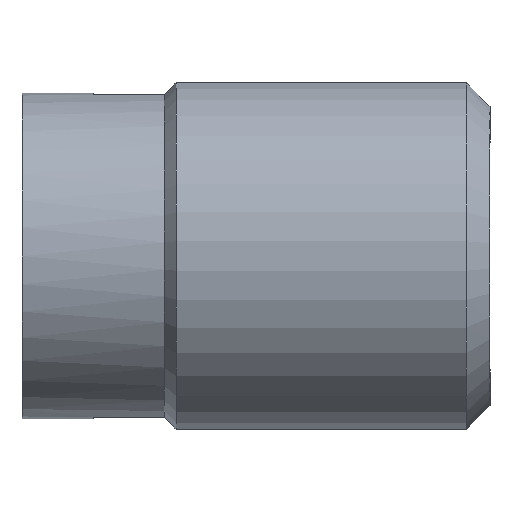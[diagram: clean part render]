
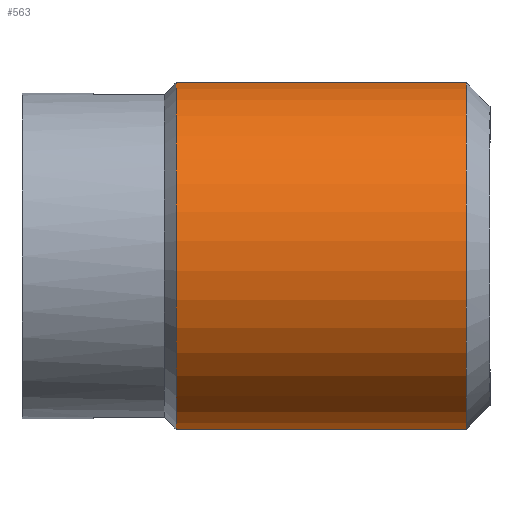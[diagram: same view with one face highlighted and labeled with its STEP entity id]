
A CAD part, front view. The second image highlights one B-rep face of the part: STEP entity #563.
In plain terms, the highlighted cylindrical face has radius 2.95 mm (diameter 5.9 mm), a partial arc.
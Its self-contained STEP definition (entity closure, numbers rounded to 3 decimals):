
#18 = ORIENTED_EDGE ( 'NONE', *, *, #809, .T. ) ;
#72 = CARTESIAN_POINT ( 'NONE',  ( -0.4, 0., 0. ) ) ;
#77 = DIRECTION ( 'NONE',  ( 1., 0., 0. ) ) ;
#91 = CIRCLE ( 'NONE', #689, 2.95 ) ;
#140 = FACE_OUTER_BOUND ( 'NONE', #587, .T. ) ;
#164 = VECTOR ( 'NONE', #519, 1000. ) ;
#166 = VERTEX_POINT ( 'NONE', #506 ) ;
#190 = LINE ( 'NONE', #711, #164 ) ;
#217 = ORIENTED_EDGE ( 'NONE', *, *, #241, .F. ) ;
#225 = CARTESIAN_POINT ( 'NONE',  ( -5.3, -0.4, -2.923 ) ) ;
#241 = EDGE_CURVE ( 'NONE', #166, #369, #381, .T. ) ;
#251 = EDGE_CURVE ( 'NONE', #166, #637, #407, .T. ) ;
#286 = ORIENTED_EDGE ( 'NONE', *, *, #251, .T. ) ;
#339 = DIRECTION ( 'NONE',  ( 0., 0., -1. ) ) ;
#364 = DIRECTION ( 'NONE',  ( 0., 0., -1. ) ) ;
#368 = DIRECTION ( 'NONE',  ( 1., 0., 0. ) ) ;
#369 = VERTEX_POINT ( 'NONE', #653 ) ;
#381 = LINE ( 'NONE', #438, #502 ) ;
#406 = CYLINDRICAL_SURFACE ( 'NONE', #741, 2.95 ) ;
#407 = CIRCLE ( 'NONE', #518, 2.95 ) ;
#438 = CARTESIAN_POINT ( 'NONE',  ( 11.788, -0.4, 2.923 ) ) ;
#444 = DIRECTION ( 'NONE',  ( 1., 0., 0. ) ) ;
#447 = EDGE_CURVE ( 'NONE', #745, #637, #190, .T. ) ;
#502 = VECTOR ( 'NONE', #444, 1000. ) ;
#506 = CARTESIAN_POINT ( 'NONE',  ( -5.3, -0.4, 2.923 ) ) ;
#518 = AXIS2_PLACEMENT_3D ( 'NONE', #642, #368, #364 ) ;
#519 = DIRECTION ( 'NONE',  ( -1., 0., 0. ) ) ;
#563 = ADVANCED_FACE ( 'NONE', ( #140 ), #406, .T. ) ;
#587 = EDGE_LOOP ( 'NONE', ( #802, #18, #217, #286 ) ) ;
#604 = CARTESIAN_POINT ( 'NONE',  ( 11.788, 0., 0. ) ) ;
#612 = DIRECTION ( 'NONE',  ( -1., 0., 0. ) ) ;
#637 = VERTEX_POINT ( 'NONE', #225 ) ;
#642 = CARTESIAN_POINT ( 'NONE',  ( -5.3, 0., 0. ) ) ;
#653 = CARTESIAN_POINT ( 'NONE',  ( -0.4, -0.4, 2.923 ) ) ;
#667 = DIRECTION ( 'NONE',  ( 0., 0., -1. ) ) ;
#680 = CARTESIAN_POINT ( 'NONE',  ( -0.4, -0.4, -2.923 ) ) ;
#689 = AXIS2_PLACEMENT_3D ( 'NONE', #72, #612, #339 ) ;
#711 = CARTESIAN_POINT ( 'NONE',  ( 11.788, -0.4, -2.923 ) ) ;
#741 = AXIS2_PLACEMENT_3D ( 'NONE', #604, #77, #667 ) ;
#745 = VERTEX_POINT ( 'NONE', #680 ) ;
#802 = ORIENTED_EDGE ( 'NONE', *, *, #447, .F. ) ;
#809 = EDGE_CURVE ( 'NONE', #745, #369, #91, .T. ) ;
